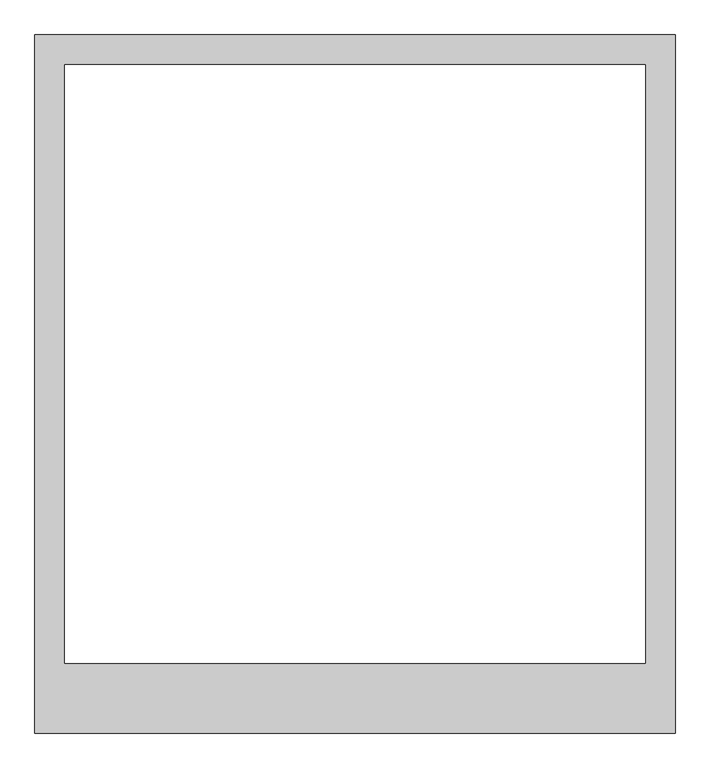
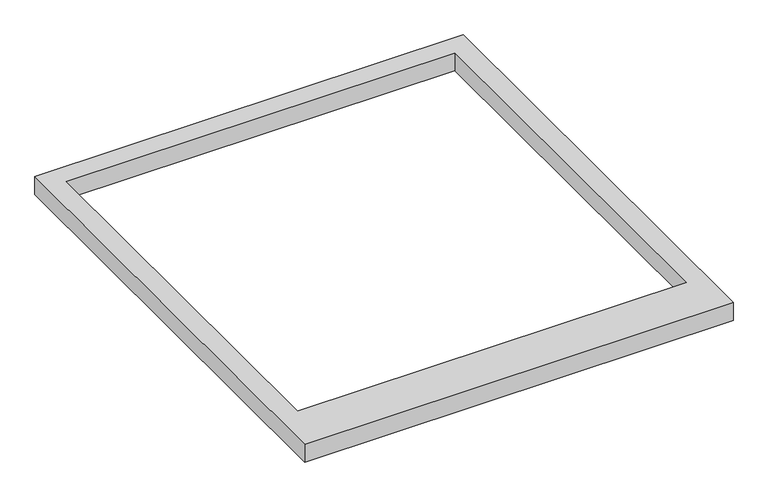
"""IFC4 building model written with IfcOpenShell, lengths in millimetres: beam geometry, Armazón estructural 2 : Armazón estructural 1."""

from ifc_helpers import new_model, si_unit, frame, origin, place, context, project, spatial, polyline, outline, extrude, source, transform, mapped, element, save


def beam_0fa59555(model_context):
    return source(origin(), model_context, "Body", "SweptSolid", [
        extrude(outline(polyline([(-1842.571429, 0.0), (-1842.571429, -1284.7857545), (-3242.839286, -1284.7857545), (-3242.839286, 0.0), (-1842.571429, 0.0)]), holes=[polyline([(-3182.839286, -60.0), (-3182.839286, -1224.7857545), (-1982.8571429, -1224.7857545), (-1982.8571429, -60.0), (-3182.839286, -60.0)])]), frame((7596.7483807, 3001.7857983, 6403.1622995), z_axis=(2.4249234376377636e-07, 0.0, 0.9999999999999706), x_axis=(0.0, -1.0, 0.0)), (0.0, 0.0, 1.0), 56.4876932),
    ])


if __name__ == "__main__":
    model = new_model("IFC4")
    model_context = context("Model", 3, world=origin())
    ifc_project = project(units=[si_unit("LENGTHUNIT", "METRE", prefix="MILLI")], contexts=[model_context])
    site = spatial("IfcSite", under=ifc_project)
    building = spatial("IfcBuilding", under=site)
    placement = place(None, origin())
    beam_shape = beam_0fa59555(model_context)
    element("IfcBeam", 1, ObjectType="Armazón estructural 2 : Armazón estructural 1", at=placement, inside=building, context=model_context, shape_type="MappedRepresentation", body=[
        mapped(beam_shape, transform((0.0, 0.0, 0.0), x_axis=(1.0, 0.0, 0.0), y_axis=(0.0, 1.0, 0.0), z_axis=(0.0, 0.0, 1.0))),
    ])
    save(model, "model.ifc")
